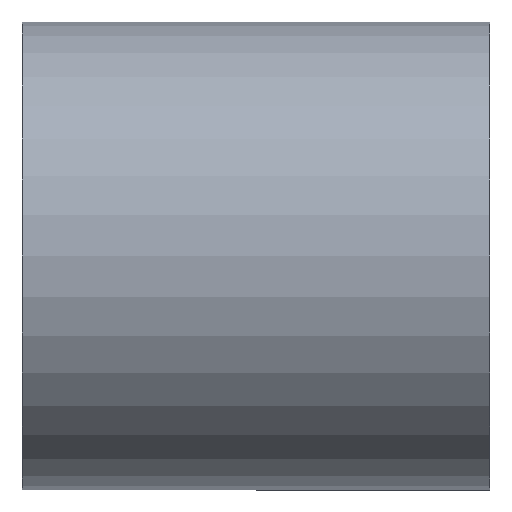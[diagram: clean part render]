
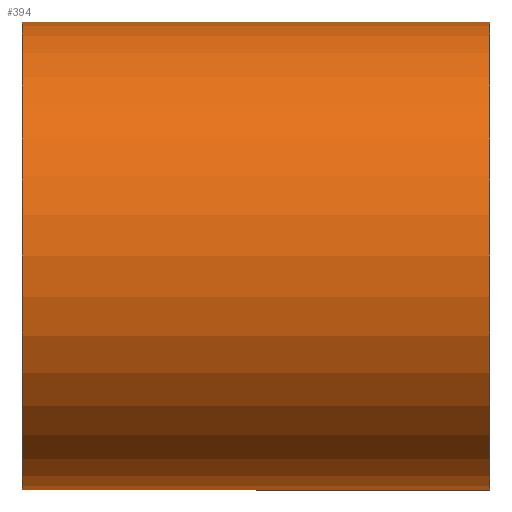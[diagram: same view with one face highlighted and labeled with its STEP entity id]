
A CAD part, front view. The second image highlights one B-rep face of the part: STEP entity #394.
In plain terms, the highlighted cylindrical face has radius 4 mm (diameter 8 mm), a partial arc.
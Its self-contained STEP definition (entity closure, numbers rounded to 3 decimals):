
#20 = CARTESIAN_POINT ( 'NONE',  ( 4., 0., -4. ) ) ;
#53 = EDGE_CURVE ( 'NONE', #197, #55, #665, .T. ) ;
#55 = VERTEX_POINT ( 'NONE', #434 ) ;
#77 = CARTESIAN_POINT ( 'NONE',  ( 0., 0., 0. ) ) ;
#101 = VERTEX_POINT ( 'NONE', #20 ) ;
#137 = EDGE_CURVE ( 'NONE', #101, #197, #376, .T. ) ;
#152 = CIRCLE ( 'NONE', #238, 4. ) ;
#169 = DIRECTION ( 'NONE',  ( -1., 0., 0. ) ) ;
#171 = CARTESIAN_POINT ( 'NONE',  ( 4., 0., 0. ) ) ;
#191 = CARTESIAN_POINT ( 'NONE',  ( 0., 0., -4. ) ) ;
#192 = FACE_OUTER_BOUND ( 'NONE', #465, .T. ) ;
#197 = VERTEX_POINT ( 'NONE', #373 ) ;
#224 = CARTESIAN_POINT ( 'NONE',  ( 0., 0., 4. ) ) ;
#238 = AXIS2_PLACEMENT_3D ( 'NONE', #604, #312, #709 ) ;
#247 = DIRECTION ( 'NONE',  ( 0., 0., 1. ) ) ;
#305 = VECTOR ( 'NONE', #169, 1000. ) ;
#312 = DIRECTION ( 'NONE',  ( -1., 0., 0. ) ) ;
#335 = VERTEX_POINT ( 'NONE', #624 ) ;
#362 = LINE ( 'NONE', #191, #468 ) ;
#363 = DIRECTION ( 'NONE',  ( -1., 0., 0. ) ) ;
#373 = CARTESIAN_POINT ( 'NONE',  ( 4., 0., 4. ) ) ;
#374 = ORIENTED_EDGE ( 'NONE', *, *, #510, .F. ) ;
#376 = CIRCLE ( 'NONE', #623, 4. ) ;
#377 = ORIENTED_EDGE ( 'NONE', *, *, #53, .T. ) ;
#394 = ADVANCED_FACE ( 'NONE', ( #192 ), #627, .T. ) ;
#411 = DIRECTION ( 'NONE',  ( -1., 0., 0. ) ) ;
#418 = AXIS2_PLACEMENT_3D ( 'NONE', #77, #363, #247 ) ;
#434 = CARTESIAN_POINT ( 'NONE',  ( -4., 0., 4. ) ) ;
#465 = EDGE_LOOP ( 'NONE', ( #549, #483, #377, #374 ) ) ;
#468 = VECTOR ( 'NONE', #411, 1000. ) ;
#483 = ORIENTED_EDGE ( 'NONE', *, *, #137, .T. ) ;
#510 = EDGE_CURVE ( 'NONE', #335, #55, #152, .T. ) ;
#549 = ORIENTED_EDGE ( 'NONE', *, *, #725, .F. ) ;
#604 = CARTESIAN_POINT ( 'NONE',  ( -4., 0., 0. ) ) ;
#607 = DIRECTION ( 'NONE',  ( 0., 0., 1. ) ) ;
#623 = AXIS2_PLACEMENT_3D ( 'NONE', #171, #679, #607 ) ;
#624 = CARTESIAN_POINT ( 'NONE',  ( -4., 0., -4. ) ) ;
#627 = CYLINDRICAL_SURFACE ( 'NONE', #418, 4. ) ;
#665 = LINE ( 'NONE', #224, #305 ) ;
#679 = DIRECTION ( 'NONE',  ( -1., 0., 0. ) ) ;
#709 = DIRECTION ( 'NONE',  ( 0., 0., 1. ) ) ;
#725 = EDGE_CURVE ( 'NONE', #101, #335, #362, .T. ) ;
